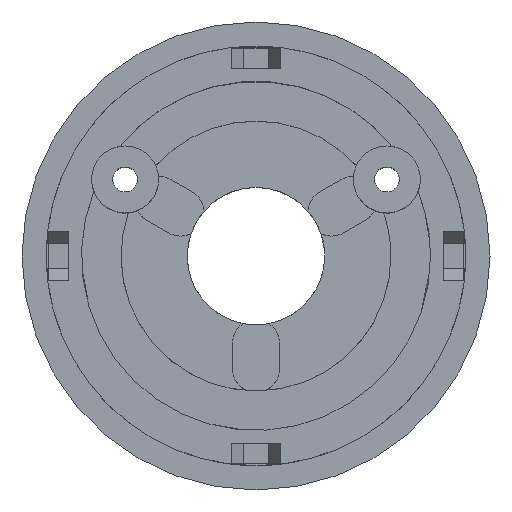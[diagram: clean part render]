
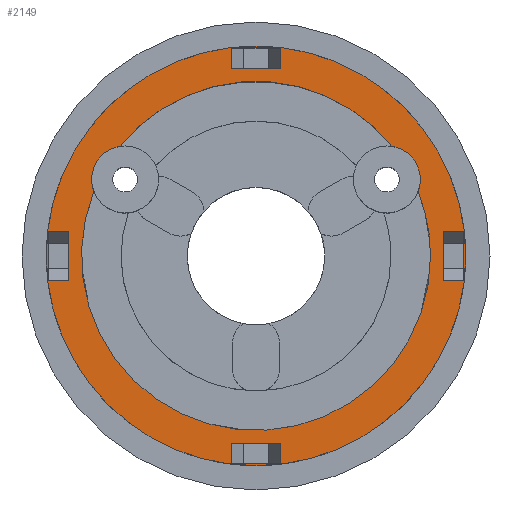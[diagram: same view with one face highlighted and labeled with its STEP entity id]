
A CAD part, top view. The second image highlights one B-rep face of the part: STEP entity #2149.
In plain terms, the highlighted planar face has unit normal (0, 0, 1).
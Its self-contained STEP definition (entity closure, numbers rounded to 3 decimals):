
#1667 = VERTEX_POINT('',#1668);
#1668 = CARTESIAN_POINT('',(28.85,0.,21.8));
#1743 = EDGE_CURVE('',#1667,#1667,#1744,.T.);
#1744 = CIRCLE('',#1745,28.85);
#1745 = AXIS2_PLACEMENT_3D('',#1746,#1747,#1748);
#1746 = CARTESIAN_POINT('',(0.,0.,21.8));
#1747 = DIRECTION('',(0.,0.,1.));
#1748 = DIRECTION('',(1.,0.,0.));
#1975 = VERTEX_POINT('',#1976);
#1976 = CARTESIAN_POINT('',(-18.697,15.047,21.8));
#1982 = EDGE_CURVE('',#1975,#1983,#1985,.T.);
#1983 = VERTEX_POINT('',#1984);
#1984 = CARTESIAN_POINT('',(-22.301,8.869,21.8));
#1985 = CIRCLE('',#1986,4.6);
#1986 = AXIS2_PLACEMENT_3D('',#1987,#1988,#1989);
#1987 = CARTESIAN_POINT('',(-18.,10.5,21.8));
#1988 = DIRECTION('',(0.,0.,1.));
#1989 = DIRECTION('',(1.,0.,0.));
#2014 = EDGE_CURVE('',#2015,#2017,#2019,.T.);
#2015 = VERTEX_POINT('',#2016);
#2016 = CARTESIAN_POINT('',(22.301,8.869,21.8));
#2017 = VERTEX_POINT('',#2018);
#2018 = CARTESIAN_POINT('',(22.6,10.5,21.8));
#2019 = CIRCLE('',#2020,4.6);
#2020 = AXIS2_PLACEMENT_3D('',#2021,#2022,#2023);
#2021 = CARTESIAN_POINT('',(18.,10.5,21.8));
#2022 = DIRECTION('',(0.,0.,1.));
#2023 = DIRECTION('',(1.,0.,0.));
#2033 = EDGE_CURVE('',#2017,#2034,#2036,.T.);
#2034 = VERTEX_POINT('',#2035);
#2035 = CARTESIAN_POINT('',(18.697,15.047,21.8));
#2036 = CIRCLE('',#2037,4.6);
#2037 = AXIS2_PLACEMENT_3D('',#2038,#2039,#2040);
#2038 = CARTESIAN_POINT('',(18.,10.5,21.8));
#2039 = DIRECTION('',(0.,0.,1.));
#2040 = DIRECTION('',(1.,0.,0.));
#2149 = ADVANCED_FACE('',(#2150,#2153,#2187,#2215,#2249,#2283),#2317,.T.
  );
#2150 = FACE_BOUND('',#2151,.T.);
#2151 = EDGE_LOOP('',(#2152));
#2152 = ORIENTED_EDGE('',*,*,#1743,.T.);
#2153 = FACE_BOUND('',#2154,.T.);
#2154 = EDGE_LOOP('',(#2155,#2165,#2173,#2181));
#2155 = ORIENTED_EDGE('',*,*,#2156,.T.);
#2156 = EDGE_CURVE('',#2157,#2159,#2161,.T.);
#2157 = VERTEX_POINT('',#2158);
#2158 = CARTESIAN_POINT('',(-3.4,-28.6,21.8));
#2159 = VERTEX_POINT('',#2160);
#2160 = CARTESIAN_POINT('',(-3.4,-25.8,21.8));
#2161 = LINE('',#2162,#2163);
#2162 = CARTESIAN_POINT('',(-3.4,-12.9,21.8));
#2163 = VECTOR('',#2164,1.);
#2164 = DIRECTION('',(0.,1.,0.));
#2165 = ORIENTED_EDGE('',*,*,#2166,.T.);
#2166 = EDGE_CURVE('',#2159,#2167,#2169,.T.);
#2167 = VERTEX_POINT('',#2168);
#2168 = CARTESIAN_POINT('',(3.4,-25.8,21.8));
#2169 = LINE('',#2170,#2171);
#2170 = CARTESIAN_POINT('',(-1.7,-25.8,21.8));
#2171 = VECTOR('',#2172,1.);
#2172 = DIRECTION('',(1.,0.,0.));
#2173 = ORIENTED_EDGE('',*,*,#2174,.F.);
#2174 = EDGE_CURVE('',#2175,#2167,#2177,.T.);
#2175 = VERTEX_POINT('',#2176);
#2176 = CARTESIAN_POINT('',(3.4,-28.6,21.8));
#2177 = LINE('',#2178,#2179);
#2178 = CARTESIAN_POINT('',(3.4,-12.9,21.8));
#2179 = VECTOR('',#2180,1.);
#2180 = DIRECTION('',(0.,1.,0.));
#2181 = ORIENTED_EDGE('',*,*,#2182,.F.);
#2182 = EDGE_CURVE('',#2157,#2175,#2183,.T.);
#2183 = LINE('',#2184,#2185);
#2184 = CARTESIAN_POINT('',(-1.7,-28.6,21.8));
#2185 = VECTOR('',#2186,1.);
#2186 = DIRECTION('',(1.,0.,0.));
#2187 = FACE_BOUND('',#2188,.T.);
#2188 = EDGE_LOOP('',(#2189,#2198,#2205,#2206,#2213,#2214));
#2189 = ORIENTED_EDGE('',*,*,#2190,.F.);
#2190 = EDGE_CURVE('',#2191,#2015,#2193,.T.);
#2191 = VERTEX_POINT('',#2192);
#2192 = CARTESIAN_POINT('',(24.,0.,21.8));
#2193 = CIRCLE('',#2194,24.);
#2194 = AXIS2_PLACEMENT_3D('',#2195,#2196,#2197);
#2195 = CARTESIAN_POINT('',(0.,0.,21.8));
#2196 = DIRECTION('',(0.,0.,1.));
#2197 = DIRECTION('',(1.,0.,0.));
#2198 = ORIENTED_EDGE('',*,*,#2199,.F.);
#2199 = EDGE_CURVE('',#1983,#2191,#2200,.T.);
#2200 = CIRCLE('',#2201,24.);
#2201 = AXIS2_PLACEMENT_3D('',#2202,#2203,#2204);
#2202 = CARTESIAN_POINT('',(0.,0.,21.8));
#2203 = DIRECTION('',(0.,0.,1.));
#2204 = DIRECTION('',(1.,0.,0.));
#2205 = ORIENTED_EDGE('',*,*,#1982,.F.);
#2206 = ORIENTED_EDGE('',*,*,#2207,.F.);
#2207 = EDGE_CURVE('',#2034,#1975,#2208,.T.);
#2208 = CIRCLE('',#2209,24.);
#2209 = AXIS2_PLACEMENT_3D('',#2210,#2211,#2212);
#2210 = CARTESIAN_POINT('',(0.,0.,21.8));
#2211 = DIRECTION('',(0.,0.,1.));
#2212 = DIRECTION('',(1.,0.,0.));
#2213 = ORIENTED_EDGE('',*,*,#2033,.F.);
#2214 = ORIENTED_EDGE('',*,*,#2014,.F.);
#2215 = FACE_BOUND('',#2216,.T.);
#2216 = EDGE_LOOP('',(#2217,#2227,#2235,#2243));
#2217 = ORIENTED_EDGE('',*,*,#2218,.T.);
#2218 = EDGE_CURVE('',#2219,#2221,#2223,.T.);
#2219 = VERTEX_POINT('',#2220);
#2220 = CARTESIAN_POINT('',(28.6,-3.4,21.8));
#2221 = VERTEX_POINT('',#2222);
#2222 = CARTESIAN_POINT('',(25.8,-3.4,21.8));
#2223 = LINE('',#2224,#2225);
#2224 = CARTESIAN_POINT('',(12.9,-3.4,21.8));
#2225 = VECTOR('',#2226,1.);
#2226 = DIRECTION('',(-1.,0.,0.));
#2227 = ORIENTED_EDGE('',*,*,#2228,.T.);
#2228 = EDGE_CURVE('',#2221,#2229,#2231,.T.);
#2229 = VERTEX_POINT('',#2230);
#2230 = CARTESIAN_POINT('',(25.8,3.4,21.8));
#2231 = LINE('',#2232,#2233);
#2232 = CARTESIAN_POINT('',(25.8,-1.7,21.8));
#2233 = VECTOR('',#2234,1.);
#2234 = DIRECTION('',(0.,1.,0.));
#2235 = ORIENTED_EDGE('',*,*,#2236,.F.);
#2236 = EDGE_CURVE('',#2237,#2229,#2239,.T.);
#2237 = VERTEX_POINT('',#2238);
#2238 = CARTESIAN_POINT('',(28.6,3.4,21.8));
#2239 = LINE('',#2240,#2241);
#2240 = CARTESIAN_POINT('',(12.9,3.4,21.8));
#2241 = VECTOR('',#2242,1.);
#2242 = DIRECTION('',(-1.,0.,0.));
#2243 = ORIENTED_EDGE('',*,*,#2244,.F.);
#2244 = EDGE_CURVE('',#2219,#2237,#2245,.T.);
#2245 = LINE('',#2246,#2247);
#2246 = CARTESIAN_POINT('',(28.6,-1.7,21.8));
#2247 = VECTOR('',#2248,1.);
#2248 = DIRECTION('',(0.,1.,0.));
#2249 = FACE_BOUND('',#2250,.T.);
#2250 = EDGE_LOOP('',(#2251,#2261,#2269,#2277));
#2251 = ORIENTED_EDGE('',*,*,#2252,.T.);
#2252 = EDGE_CURVE('',#2253,#2255,#2257,.T.);
#2253 = VERTEX_POINT('',#2254);
#2254 = CARTESIAN_POINT('',(-28.6,3.4,21.8));
#2255 = VERTEX_POINT('',#2256);
#2256 = CARTESIAN_POINT('',(-25.8,3.4,21.8));
#2257 = LINE('',#2258,#2259);
#2258 = CARTESIAN_POINT('',(-12.9,3.4,21.8));
#2259 = VECTOR('',#2260,1.);
#2260 = DIRECTION('',(1.,0.,0.));
#2261 = ORIENTED_EDGE('',*,*,#2262,.T.);
#2262 = EDGE_CURVE('',#2255,#2263,#2265,.T.);
#2263 = VERTEX_POINT('',#2264);
#2264 = CARTESIAN_POINT('',(-25.8,-3.4,21.8));
#2265 = LINE('',#2266,#2267);
#2266 = CARTESIAN_POINT('',(-25.8,1.7,21.8));
#2267 = VECTOR('',#2268,1.);
#2268 = DIRECTION('',(0.,-1.,0.));
#2269 = ORIENTED_EDGE('',*,*,#2270,.F.);
#2270 = EDGE_CURVE('',#2271,#2263,#2273,.T.);
#2271 = VERTEX_POINT('',#2272);
#2272 = CARTESIAN_POINT('',(-28.6,-3.4,21.8));
#2273 = LINE('',#2274,#2275);
#2274 = CARTESIAN_POINT('',(-12.9,-3.4,21.8));
#2275 = VECTOR('',#2276,1.);
#2276 = DIRECTION('',(1.,0.,0.));
#2277 = ORIENTED_EDGE('',*,*,#2278,.F.);
#2278 = EDGE_CURVE('',#2253,#2271,#2279,.T.);
#2279 = LINE('',#2280,#2281);
#2280 = CARTESIAN_POINT('',(-28.6,1.7,21.8));
#2281 = VECTOR('',#2282,1.);
#2282 = DIRECTION('',(0.,-1.,0.));
#2283 = FACE_BOUND('',#2284,.T.);
#2284 = EDGE_LOOP('',(#2285,#2295,#2303,#2311));
#2285 = ORIENTED_EDGE('',*,*,#2286,.T.);
#2286 = EDGE_CURVE('',#2287,#2289,#2291,.T.);
#2287 = VERTEX_POINT('',#2288);
#2288 = CARTESIAN_POINT('',(3.4,28.6,21.8));
#2289 = VERTEX_POINT('',#2290);
#2290 = CARTESIAN_POINT('',(3.4,25.8,21.8));
#2291 = LINE('',#2292,#2293);
#2292 = CARTESIAN_POINT('',(3.4,12.9,21.8));
#2293 = VECTOR('',#2294,1.);
#2294 = DIRECTION('',(0.,-1.,0.));
#2295 = ORIENTED_EDGE('',*,*,#2296,.T.);
#2296 = EDGE_CURVE('',#2289,#2297,#2299,.T.);
#2297 = VERTEX_POINT('',#2298);
#2298 = CARTESIAN_POINT('',(-3.4,25.8,21.8));
#2299 = LINE('',#2300,#2301);
#2300 = CARTESIAN_POINT('',(1.7,25.8,21.8));
#2301 = VECTOR('',#2302,1.);
#2302 = DIRECTION('',(-1.,0.,0.));
#2303 = ORIENTED_EDGE('',*,*,#2304,.F.);
#2304 = EDGE_CURVE('',#2305,#2297,#2307,.T.);
#2305 = VERTEX_POINT('',#2306);
#2306 = CARTESIAN_POINT('',(-3.4,28.6,21.8));
#2307 = LINE('',#2308,#2309);
#2308 = CARTESIAN_POINT('',(-3.4,12.9,21.8));
#2309 = VECTOR('',#2310,1.);
#2310 = DIRECTION('',(0.,-1.,0.));
#2311 = ORIENTED_EDGE('',*,*,#2312,.F.);
#2312 = EDGE_CURVE('',#2287,#2305,#2313,.T.);
#2313 = LINE('',#2314,#2315);
#2314 = CARTESIAN_POINT('',(1.7,28.6,21.8));
#2315 = VECTOR('',#2316,1.);
#2316 = DIRECTION('',(-1.,0.,0.));
#2317 = PLANE('',#2318);
#2318 = AXIS2_PLACEMENT_3D('',#2319,#2320,#2321);
#2319 = CARTESIAN_POINT('',(0.,0.,21.8));
#2320 = DIRECTION('',(0.,0.,1.));
#2321 = DIRECTION('',(1.,0.,0.));
